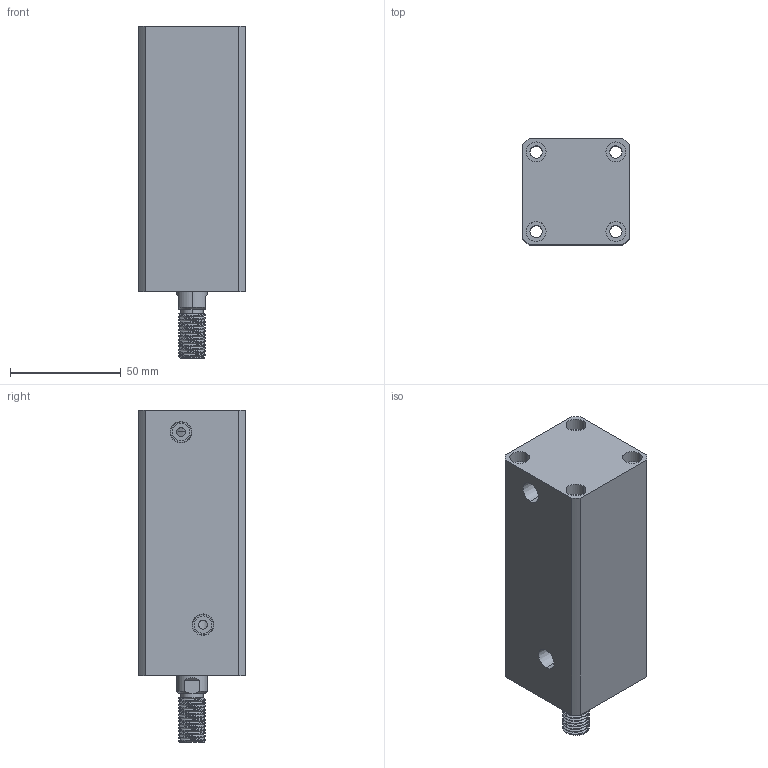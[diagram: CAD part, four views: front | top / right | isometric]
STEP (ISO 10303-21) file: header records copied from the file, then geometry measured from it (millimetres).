
FILE_DESCRIPTION (( 'STEP AP214' ), '1' );
FILE_NAME ('chtb-sd25x75w_asm.STEP', '2018-05-22T09:44:29', ( 'Windows' ), ( 'Microsoft' ), 'SwSTEP 2.0', 'SolidWorks 2015', '' );
FILE_SCHEMA (( 'AUTOMOTIVE_DESIGN' ));
Length unit declared in the file: millimetre
Products named in the file (4): CHTB-SD25X75WHSG; CHTB-SD25X75NBT; CHTB-25QG; chtb-sd25x75w_asm
Assembly tree (3 placements, depth 2):
  chtb-sd25x75w_asm
    CHTB-25QG
    CHTB-SD25X75NBT
    CHTB-SD25X75WHSG
Bounding box: 48 x 48 x 150 mm (x, y, z)
Volume: 237057.8 mm3; surface area: 58702 mm2
Topology: 3 solids, 3 shells, 178 faces, 474 edges, 323 vertices
Faces by surface type: cylinder 113, plane 39, cone 14, bspline 12
Entity records: 10610 total; most frequent: CARTESIAN_POINT 6273, ORIENTED_EDGE 940, DIRECTION 778, EDGE_CURVE 470, VERTEX_POINT 323, AXIS2_PLACEMENT_3D 317, EDGE_LOOP 217, ADVANCED_FACE 178
